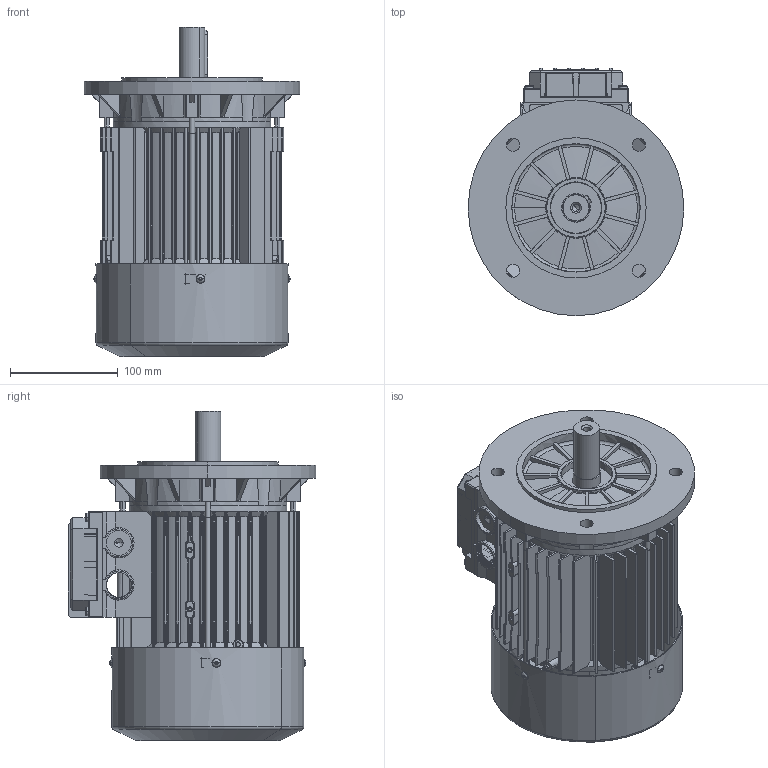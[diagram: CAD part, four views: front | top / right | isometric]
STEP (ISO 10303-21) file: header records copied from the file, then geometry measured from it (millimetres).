
FILE_DESCRIPTION (( 'STEP AP214' ), '1' );
FILE_NAME ('SM 90 S B5.STEP', '2017-09-28T12:53:00', ( '' ), ( '' ), 'SwSTEP 2.0', 'SolidWorks 2017', '' );
FILE_SCHEMA (( 'AUTOMOTIVE_DESIGN' ));
Length unit declared in the file: millimetre
Products named in the file (13): Coperchio per Scatola Singola 90 - 100 - 112 con viti; Vite  a testa bombata M4x16; Coperchio per Scatola Singola 90 - 100 - 112; Tirante SM 90S; Scudo Lato Comando B3 BA-BM 90 - DDAD0094; Scudo a flangia B5 Fi 200 BA-BM 90 - DDAA00195; Carcassa 90 S B5; SM 90 S B5; Ventola BM 90; Chiavetta 90; Albero SM 90 S; Vite testa rotonda M3; Cuffia SM 90
Assembly tree (21 placements, depth 3):
  SM 90 S B5
    Carcassa 90 S B5
    Scudo a flangia B5 Fi 200 BA-BM 90 - DDAA00195
    Scudo Lato Comando B3 BA-BM 90 - DDAD0094
    Tirante SM 90S  x4
    Coperchio per Scatola Singola 90 - 100 - 112 con viti
      Coperchio per Scatola Singola 90 - 100 - 112
      Vite  a testa bombata M4x16  x4
    Cuffia SM 90
    Vite testa rotonda M3  x4
    Albero SM 90 S
    Chiavetta 90
    Ventola BM 90
Bounding box: 200 x 229.5 x 305 mm (x, y, z)
Volume: 1250202.6 mm3; surface area: 750326.7 mm2
Topology: 24 solids, 24 shells, 4200 faces, 11434 edges, 7341 vertices
Faces by surface type: plane 1628, cylinder 1305, bspline 441, cone 413, torus 403, sphere 10
Entity records: 148908 total; most frequent: CARTESIAN_POINT 55522, ORIENTED_EDGE 20858, DIRECTION 17299, EDGE_CURVE 10429, VERTEX_POINT 6741, AXIS2_PLACEMENT_3D 6433, VECTOR 4433, LINE 4433
